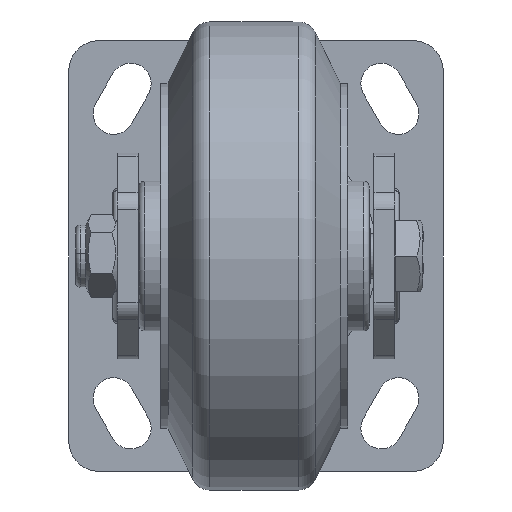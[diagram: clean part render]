
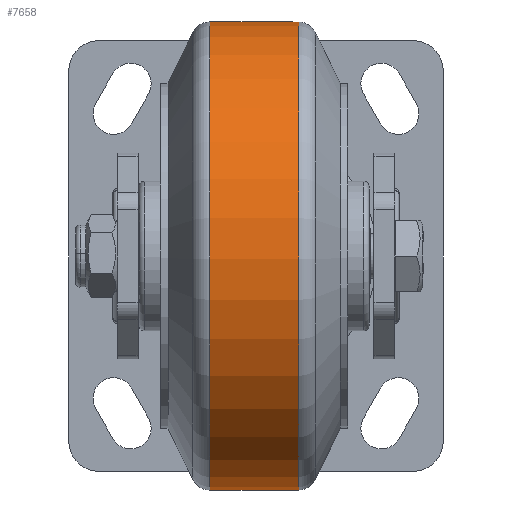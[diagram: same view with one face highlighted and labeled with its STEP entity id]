
A CAD part, front view. The second image highlights one B-rep face of the part: STEP entity #7658.
In plain terms, the highlighted cylindrical face has radius 62.5 mm (diameter 125 mm), a partial arc.
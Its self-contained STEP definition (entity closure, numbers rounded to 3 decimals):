
#4358 = DIRECTION ( 'NONE',  ( 0., -1., 0. ) ) ;
#4359 = VECTOR ( 'NONE', #4358, 1000. ) ;
#4370 = CARTESIAN_POINT ( 'NONE',  ( 0., 0., -62.5 ) ) ;
#4371 = LINE ( 'NONE', #4370, #4359 ) ;
#4403 = CARTESIAN_POINT ( 'NONE',  ( 0., 29.132, -62.5 ) ) ;
#4873 = DIRECTION ( 'NONE',  ( 0., 0., -1. ) ) ;
#4874 = DIRECTION ( 'NONE',  ( 0., -1., 0. ) ) ;
#4875 = CARTESIAN_POINT ( 'NONE',  ( 0., 29.132, 0. ) ) ;
#4876 = AXIS2_PLACEMENT_3D ( 'NONE', #4875, #4874, #4873 ) ;
#4877 = CIRCLE ( 'NONE', #4876, 62.5 ) ;
#4980 = DIRECTION ( 'NONE',  ( 0., 0., -1. ) ) ;
#4981 = DIRECTION ( 'NONE',  ( 0., -1., 0. ) ) ;
#4982 = CARTESIAN_POINT ( 'NONE',  ( 0., 0., 0. ) ) ;
#4983 = AXIS2_PLACEMENT_3D ( 'NONE', #4982, #4981, #4980 ) ;
#4984 = CYLINDRICAL_SURFACE ( 'NONE', #4983, 62.5 ) ;
#4986 = FACE_OUTER_BOUND ( 'NONE', #7660, .T. ) ;
#5063 = DIRECTION ( 'NONE',  ( 0., 0., -1. ) ) ;
#5064 = DIRECTION ( 'NONE',  ( 0., -1., 0. ) ) ;
#5076 = CARTESIAN_POINT ( 'NONE',  ( 0., 52.868, 0. ) ) ;
#5077 = AXIS2_PLACEMENT_3D ( 'NONE', #5076, #5064, #5063 ) ;
#5078 = CIRCLE ( 'NONE', #5077, 62.5 ) ;
#6968 = VERTEX_POINT ( 'NONE', #14991 ) ;
#6971 = VERTEX_POINT ( 'NONE', #14985 ) ;
#6980 = EDGE_CURVE ( 'NONE', #6968, #6981, #15032, .T. ) ;
#6981 = VERTEX_POINT ( 'NONE', #15010 ) ;
#7469 = VERTEX_POINT ( 'NONE', #4403 ) ;
#7483 = EDGE_CURVE ( 'NONE', #6971, #7469, #4371, .T. ) ;
#7658 = ADVANCED_FACE ( 'NONE', ( #4986 ), #4984, .T. ) ;
#7660 = EDGE_LOOP ( 'NONE', ( #7693, #7695, #7807, #7810 ) ) ;
#7672 = EDGE_CURVE ( 'NONE', #6981, #7469, #4877, .T. ) ;
#7693 = ORIENTED_EDGE ( 'NONE', *, *, #6980, .F. ) ;
#7695 = ORIENTED_EDGE ( 'NONE', *, *, #7697, .T. ) ;
#7697 = EDGE_CURVE ( 'NONE', #6968, #6971, #5078, .T. ) ;
#7807 = ORIENTED_EDGE ( 'NONE', *, *, #7483, .T. ) ;
#7810 = ORIENTED_EDGE ( 'NONE', *, *, #7672, .F. ) ;
#14985 = CARTESIAN_POINT ( 'NONE',  ( 0., 52.868, -62.5 ) ) ;
#14991 = CARTESIAN_POINT ( 'NONE',  ( 0., 52.868, 62.5 ) ) ;
#15010 = CARTESIAN_POINT ( 'NONE',  ( 0., 29.132, 62.5 ) ) ;
#15011 = DIRECTION ( 'NONE',  ( 0., -1., 0. ) ) ;
#15012 = VECTOR ( 'NONE', #15011, 1000. ) ;
#15013 = CARTESIAN_POINT ( 'NONE',  ( 0., 0., 62.5 ) ) ;
#15032 = LINE ( 'NONE', #15013, #15012 ) ;
